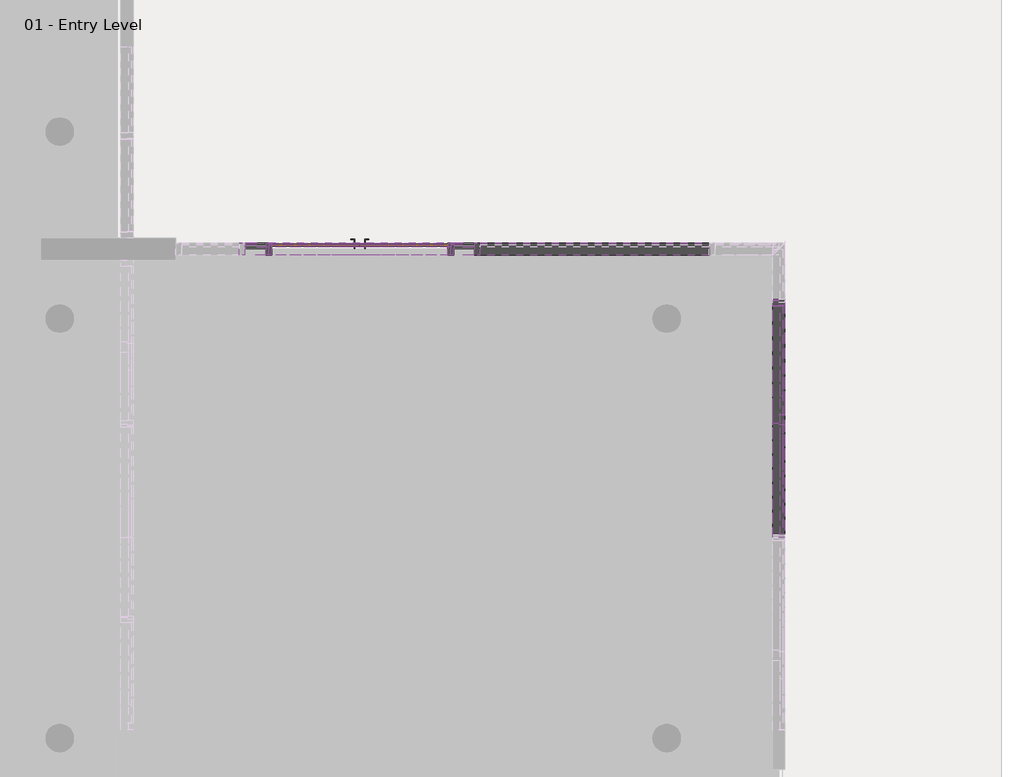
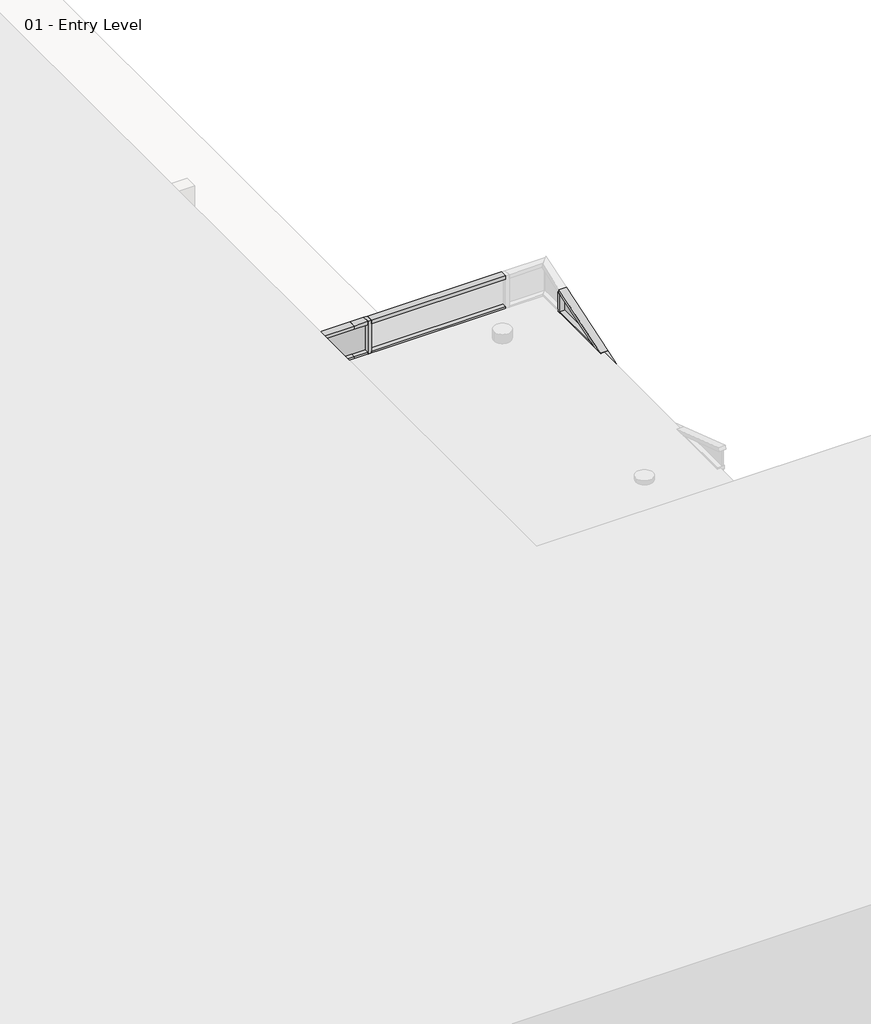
# One storey, part 16 of 35: 95 members, 27 plates, 1 door.
"""IFC4 building model written with IfcOpenShell, lengths in millimetres."""

from ifc_helpers import new_model, si_unit, origin, place, context, project, spatial, transform, mapped, element, save
from components import curtain_wall_dbl_glass_curtain_wall_dbl_glass_a5de0235, member_6e77e263, member_89bfb2f9, member_85cc6aa7, member_474f9ece, member_fce4fd76, member_056e3271, member_b2bde9e6, member_5d67b9fc, member_a5966c2a, member_aa396729, member_420b45ef, member_2eb7018d, member_d60e8053, member_51dbde35, member_30b3e1b1, member_80bb9b3a, member_75d1e245, system_panel_glazed_1068a10c, system_panel_glazed_a178916c, system_panel_glazed_5992a3c5, system_panel_glazed_079f77b7, system_panel_glazed_7ab8f380, system_panel_glazed_5ffb59d1, system_panel_glazed_9c9336f7, system_panel_glazed_75890ef7, system_panel_glazed_ea9774ea

model = new_model("IFC4")

# Units and contexts
model_context = context("Model", 3, world=origin())
ifc_project = project(units=[si_unit("LENGTHUNIT", "METRE", prefix="MILLI")], contexts=[model_context])

# Site, building, storey
site = spatial("IfcSite", under=ifc_project)
building = spatial("IfcBuilding", under=site)
storey = spatial("IfcBuildingStorey", under=building, Name="01 - Entry Level", Elevation=0.0)

# Door
placement = place(None, origin())
curtain_wall_dbl_glass_curtain_wall_dbl_glass_shape = curtain_wall_dbl_glass_curtain_wall_dbl_glass_a5de0235(model_context)
element("IfcDoor", 1, ObjectType="Curtain Wall Dbl Glass : Curtain Wall Dbl Glass", at=placement, inside=storey, context=model_context, shape_type="MappedRepresentation", body=[
    mapped(curtain_wall_dbl_glass_curtain_wall_dbl_glass_shape, transform((19598.7615197, 22545.6, 0.0), x_axis=(-1.0, 0.0, 0.0), y_axis=(0.0, -1.0, 0.0), z_axis=(0.0, 0.0, 1.0))),
])

# Members
member_shape = member_6e77e263(model_context)
element("IfcMember", 2, ObjectType="Rectangular Mullion : 2.5\" x 5\" rectangular", at=placement, inside=storey, context=model_context, shape_type="MappedRepresentation", body=[
    mapped(member_shape, transform((20817.9615197, 22545.6, 0.0), x_axis=(-1.0, 0.0, 0.0), y_axis=(0.0, 1.0, 0.0), z_axis=(0.0, 0.0, -1.0))),
])
element("IfcMember", 3, ObjectType="Rectangular Mullion : 2.5\" x 5\" rectangular", at=placement, inside=storey, context=model_context, shape_type="MappedRepresentation", body=[
    mapped(member_shape, transform((23947.0115197, 21986.8, 0.0), x_axis=(0.0, 1.0, 0.0), y_axis=(1.0, 0.0, 0.0), z_axis=(0.0, 0.0, -1.0))),
])
element("IfcMember", 4, ObjectType="Rectangular Mullion : 2.5\" x 5\" rectangular", at=placement, inside=storey, context=model_context, shape_type="MappedRepresentation", body=[
    mapped(member_shape, transform((20817.9615197, 22545.6, 609.6), x_axis=(-1.0, 0.0, 0.0), y_axis=(0.0, 1.0, 0.0), z_axis=(0.0, 0.0, -1.0))),
])
element("IfcMember", 5, ObjectType="Rectangular Mullion : 2.5\" x 5\" rectangular", at=placement, inside=storey, context=model_context, shape_type="MappedRepresentation", body=[
    mapped(member_shape, transform((20817.9615197, 22545.6, 1219.2), x_axis=(-1.0, 0.0, 0.0), y_axis=(0.0, 1.0, 0.0), z_axis=(0.0, 0.0, -1.0))),
])
element("IfcMember", 6, ObjectType="Rectangular Mullion : 2.5\" x 5\" rectangular", at=placement, inside=storey, context=model_context, shape_type="MappedRepresentation", body=[
    mapped(member_shape, transform((20817.9615197, 22545.6, 2438.4), x_axis=(-1.0, 0.0, 0.0), y_axis=(0.0, 1.0, 0.0), z_axis=(0.0, 0.0, -1.0))),
])
element("IfcMember", 7, ObjectType="Rectangular Mullion : 2.5\" x 5\" rectangular", at=placement, inside=storey, context=model_context, shape_type="MappedRepresentation", body=[
    mapped(member_shape, transform((20817.9615197, 22545.6, 3048.0), x_axis=(-1.0, 0.0, 0.0), y_axis=(0.0, 1.0, 0.0), z_axis=(0.0, 0.0, -1.0))),
])
element("IfcMember", 8, ObjectType="Rectangular Mullion : 2.5\" x 5\" rectangular", at=placement, inside=storey, context=model_context, shape_type="MappedRepresentation", body=[
    mapped(member_shape, transform((23947.0115197, 21986.8, 609.6), x_axis=(0.0, 1.0, 0.0), y_axis=(1.0, 0.0, 0.0), z_axis=(0.0, 0.0, -1.0))),
])
element("IfcMember", 9, ObjectType="Rectangular Mullion : 2.5\" x 5\" rectangular", at=placement, inside=storey, context=model_context, shape_type="MappedRepresentation", body=[
    mapped(member_shape, transform((23947.0115197, 21986.8, 1219.2), x_axis=(0.0, 1.0, 0.0), y_axis=(1.0, 0.0, 0.0), z_axis=(0.0, 0.0, -1.0))),
])
element("IfcMember", 10, ObjectType="Rectangular Mullion : 2.5\" x 5\" rectangular", at=placement, inside=storey, context=model_context, shape_type="MappedRepresentation", body=[
    mapped(member_shape, transform((23947.0115197, 21986.8, 1828.8), x_axis=(0.0, 1.0, 0.0), y_axis=(1.0, 0.0, 0.0), z_axis=(0.0, 0.0, -1.0))),
])
element("IfcMember", 11, ObjectType="Rectangular Mullion : 2.5\" x 5\" rectangular", at=placement, inside=storey, context=model_context, shape_type="MappedRepresentation", body=[
    mapped(member_shape, transform((23947.0115197, 21986.8, 2438.4), x_axis=(0.0, 1.0, 0.0), y_axis=(1.0, 0.0, 0.0), z_axis=(0.0, 0.0, -1.0))),
])
element("IfcMember", 12, ObjectType="Rectangular Mullion : 2.5\" x 5\" rectangular", at=placement, inside=storey, context=model_context, shape_type="MappedRepresentation", body=[
    mapped(member_shape, transform((23947.0115197, 21986.8, 3048.0), x_axis=(0.0, 1.0, 0.0), y_axis=(1.0, 0.0, 0.0), z_axis=(0.0, 0.0, -1.0))),
])
element("IfcMember", 13, ObjectType="Rectangular Mullion : 2.5\" x 5\" rectangular", at=placement, inside=storey, context=model_context, shape_type="MappedRepresentation", body=[
    mapped(member_shape, transform((23947.0115197, 21986.8, 3657.6), x_axis=(0.0, 1.0, 0.0), y_axis=(1.0, 0.0, 0.0), z_axis=(0.0, 0.0, -1.0))),
])
element("IfcMember", 14, ObjectType="Rectangular Mullion : 2.5\" x 5\" rectangular", at=placement, inside=storey, context=model_context, shape_type="MappedRepresentation", body=[
    mapped(member_shape, transform((23947.0115197, 21986.8, 4267.2), x_axis=(0.0, 1.0, 0.0), y_axis=(1.0, 0.0, 0.0), z_axis=(0.0, 0.0, -1.0))),
])
element("IfcMember", 15, ObjectType="Rectangular Mullion : 2.5\" x 5\" rectangular", at=placement, inside=storey, context=model_context, shape_type="MappedRepresentation", body=[
    mapped(member_shape, transform((23947.0115197, 21986.8, 4876.8), x_axis=(0.0, 1.0, 0.0), y_axis=(1.0, 0.0, 0.0), z_axis=(0.0, 0.0, -1.0))),
])
element("IfcMember", 16, ObjectType="Rectangular Mullion : 2.5\" x 5\" rectangular", at=placement, inside=storey, context=model_context, shape_type="MappedRepresentation", body=[
    mapped(member_shape, transform((23947.0115197, 21986.8, 5486.4), x_axis=(0.0, 1.0, 0.0), y_axis=(1.0, 0.0, 0.0), z_axis=(0.0, 0.0, -1.0))),
])
element("IfcMember", 17, ObjectType="Rectangular Mullion : 2.5\" x 5\" rectangular", at=placement, inside=storey, context=model_context, shape_type="MappedRepresentation", body=[
    mapped(member_shape, transform((23947.0115197, 21986.8, 6096.0), x_axis=(0.0, 1.0, 0.0), y_axis=(1.0, 0.0, 0.0), z_axis=(0.0, 0.0, -1.0))),
])
element("IfcMember", 18, ObjectType="Rectangular Mullion : 2.5\" x 5\" rectangular", at=placement, inside=storey, context=model_context, shape_type="MappedRepresentation", body=[
    mapped(member_shape, transform((20817.9615197, 22545.6, 3657.6), x_axis=(-1.0, 0.0, 0.0), y_axis=(0.0, 1.0, 0.0), z_axis=(0.0, 0.0, -1.0))),
])
element("IfcMember", 19, ObjectType="Rectangular Mullion : 2.5\" x 5\" rectangular", at=placement, inside=storey, context=model_context, shape_type="MappedRepresentation", body=[
    mapped(member_shape, transform((20817.9615197, 22545.6, 4267.2), x_axis=(-1.0, 0.0, 0.0), y_axis=(0.0, 1.0, 0.0), z_axis=(0.0, 0.0, -1.0))),
])
element("IfcMember", 20, ObjectType="Rectangular Mullion : 2.5\" x 5\" rectangular", at=placement, inside=storey, context=model_context, shape_type="MappedRepresentation", body=[
    mapped(member_shape, transform((20817.9615197, 22545.6, 4876.8), x_axis=(-1.0, 0.0, 0.0), y_axis=(0.0, 1.0, 0.0), z_axis=(0.0, 0.0, -1.0))),
])
element("IfcMember", 21, ObjectType="Rectangular Mullion : 2.5\" x 5\" rectangular", at=placement, inside=storey, context=model_context, shape_type="MappedRepresentation", body=[
    mapped(member_shape, transform((20817.9615197, 22545.6, 5486.4), x_axis=(-1.0, 0.0, 0.0), y_axis=(0.0, 1.0, 0.0), z_axis=(0.0, 0.0, -1.0))),
])
element("IfcMember", 22, ObjectType="Rectangular Mullion : 2.5\" x 5\" rectangular", at=placement, inside=storey, context=model_context, shape_type="MappedRepresentation", body=[
    mapped(member_shape, transform((20817.9615197, 22545.6, 6096.0), x_axis=(-1.0, 0.0, 0.0), y_axis=(0.0, 1.0, 0.0), z_axis=(0.0, 0.0, -1.0))),
])
element("IfcMember", 23, ObjectType="Rectangular Mullion : 2.5\" x 5\" rectangular", at=placement, inside=storey, context=model_context, shape_type="MappedRepresentation", body=[
    mapped(member_shape, transform((18379.5615197, 22545.6, 4267.2), x_axis=(-1.0, 0.0, 0.0), y_axis=(0.0, 1.0, 0.0), z_axis=(0.0, 0.0, -1.0))),
])
element("IfcMember", 24, ObjectType="Rectangular Mullion : 2.5\" x 5\" rectangular", at=placement, inside=storey, context=model_context, shape_type="MappedRepresentation", body=[
    mapped(member_shape, transform((18379.5615197, 22545.6, 4876.8), x_axis=(-1.0, 0.0, 0.0), y_axis=(0.0, 1.0, 0.0), z_axis=(0.0, 0.0, -1.0))),
])
element("IfcMember", 25, ObjectType="Rectangular Mullion : 2.5\" x 5\" rectangular", at=placement, inside=storey, context=model_context, shape_type="MappedRepresentation", body=[
    mapped(member_shape, transform((18379.5615197, 22545.6, 5486.4), x_axis=(-1.0, 0.0, 0.0), y_axis=(0.0, 1.0, 0.0), z_axis=(0.0, 0.0, -1.0))),
])
element("IfcMember", 26, ObjectType="Rectangular Mullion : 2.5\" x 5\" rectangular", at=placement, inside=storey, context=model_context, shape_type="MappedRepresentation", body=[
    mapped(member_shape, transform((18379.5615197, 22545.6, 6096.0), x_axis=(-1.0, 0.0, 0.0), y_axis=(0.0, 1.0, 0.0), z_axis=(0.0, 0.0, -1.0))),
])
member_2_shape = member_89bfb2f9(model_context)
element("IfcMember", 27, ObjectType="Rectangular Mullion : 2.5\" x 5\" rectangular", at=placement, inside=storey, context=model_context, shape_type="MappedRepresentation", body=[
    mapped(member_2_shape, transform((20849.7115197, 22545.6, 609.6), x_axis=(0.0, 0.0, 1.0), y_axis=(0.0, 1.0, 0.0), z_axis=(-1.0, 0.0, 0.0))),
])
element("IfcMember", 28, ObjectType="Rectangular Mullion : 2.5\" x 5\" rectangular", at=placement, inside=storey, context=model_context, shape_type="MappedRepresentation", body=[
    mapped(member_2_shape, transform((20849.7115197, 22545.6, 1219.2), x_axis=(0.0, 0.0, 1.0), y_axis=(0.0, 1.0, 0.0), z_axis=(-1.0, 0.0, 0.0))),
])
element("IfcMember", 29, ObjectType="Rectangular Mullion : 2.5\" x 5\" rectangular", at=placement, inside=storey, context=model_context, shape_type="MappedRepresentation", body=[
    mapped(member_2_shape, transform((20849.7115197, 22545.6, 1828.8), x_axis=(0.0, 0.0, 1.0), y_axis=(0.0, 1.0, 0.0), z_axis=(-1.0, 0.0, 0.0))),
])
element("IfcMember", 30, ObjectType="Rectangular Mullion : 2.5\" x 5\" rectangular", at=placement, inside=storey, context=model_context, shape_type="MappedRepresentation", body=[
    mapped(member_2_shape, transform((20849.7115197, 22545.6, 2438.4), x_axis=(0.0, 0.0, 1.0), y_axis=(0.0, 1.0, 0.0), z_axis=(-1.0, 0.0, 0.0))),
])
element("IfcMember", 31, ObjectType="Rectangular Mullion : 2.5\" x 5\" rectangular", at=placement, inside=storey, context=model_context, shape_type="MappedRepresentation", body=[
    mapped(member_2_shape, transform((20849.7115197, 22545.6, 3048.0), x_axis=(0.0, 0.0, 1.0), y_axis=(0.0, 1.0, 0.0), z_axis=(-1.0, 0.0, 0.0))),
])
element("IfcMember", 32, ObjectType="Rectangular Mullion : 2.5\" x 5\" rectangular", at=placement, inside=storey, context=model_context, shape_type="MappedRepresentation", body=[
    mapped(member_2_shape, transform((23947.0115197, 21955.05, 609.6), x_axis=(0.0, 0.0, 1.0), y_axis=(1.0, 0.0, 0.0), z_axis=(0.0, 1.0, 0.0))),
])
element("IfcMember", 33, ObjectType="Rectangular Mullion : 2.5\" x 5\" rectangular", at=placement, inside=storey, context=model_context, shape_type="MappedRepresentation", body=[
    mapped(member_2_shape, transform((23947.0115197, 21955.05, 1219.2), x_axis=(0.0, 0.0, 1.0), y_axis=(1.0, 0.0, 0.0), z_axis=(0.0, 1.0, 0.0))),
])
element("IfcMember", 34, ObjectType="Rectangular Mullion : 2.5\" x 5\" rectangular", at=placement, inside=storey, context=model_context, shape_type="MappedRepresentation", body=[
    mapped(member_2_shape, transform((23947.0115197, 21955.05, 1828.8), x_axis=(0.0, 0.0, 1.0), y_axis=(1.0, 0.0, 0.0), z_axis=(0.0, 1.0, 0.0))),
])
element("IfcMember", 35, ObjectType="Rectangular Mullion : 2.5\" x 5\" rectangular", at=placement, inside=storey, context=model_context, shape_type="MappedRepresentation", body=[
    mapped(member_2_shape, transform((23947.0115197, 21955.05, 2438.4), x_axis=(0.0, 0.0, 1.0), y_axis=(1.0, 0.0, 0.0), z_axis=(0.0, 1.0, 0.0))),
])
element("IfcMember", 36, ObjectType="Rectangular Mullion : 2.5\" x 5\" rectangular", at=placement, inside=storey, context=model_context, shape_type="MappedRepresentation", body=[
    mapped(member_2_shape, transform((23947.0115197, 21955.05, 3048.0), x_axis=(0.0, 0.0, 1.0), y_axis=(1.0, 0.0, 0.0), z_axis=(0.0, 1.0, 0.0))),
])
element("IfcMember", 37, ObjectType="Rectangular Mullion : 2.5\" x 5\" rectangular", at=placement, inside=storey, context=model_context, shape_type="MappedRepresentation", body=[
    mapped(member_2_shape, transform((23947.0115197, 21955.05, 3657.6), x_axis=(0.0, 0.0, 1.0), y_axis=(1.0, 0.0, 0.0), z_axis=(0.0, 1.0, 0.0))),
])
element("IfcMember", 38, ObjectType="Rectangular Mullion : 2.5\" x 5\" rectangular", at=placement, inside=storey, context=model_context, shape_type="MappedRepresentation", body=[
    mapped(member_2_shape, transform((23947.0115197, 21955.05, 4267.2), x_axis=(0.0, 0.0, 1.0), y_axis=(1.0, 0.0, 0.0), z_axis=(0.0, 1.0, 0.0))),
])
element("IfcMember", 39, ObjectType="Rectangular Mullion : 2.5\" x 5\" rectangular", at=placement, inside=storey, context=model_context, shape_type="MappedRepresentation", body=[
    mapped(member_2_shape, transform((23947.0115197, 21955.05, 4876.8), x_axis=(0.0, 0.0, 1.0), y_axis=(1.0, 0.0, 0.0), z_axis=(0.0, 1.0, 0.0))),
])
element("IfcMember", 40, ObjectType="Rectangular Mullion : 2.5\" x 5\" rectangular", at=placement, inside=storey, context=model_context, shape_type="MappedRepresentation", body=[
    mapped(member_2_shape, transform((23947.0115197, 21955.05, 5486.4), x_axis=(0.0, 0.0, 1.0), y_axis=(1.0, 0.0, 0.0), z_axis=(0.0, 1.0, 0.0))),
])
element("IfcMember", 41, ObjectType="Rectangular Mullion : 2.5\" x 5\" rectangular", at=placement, inside=storey, context=model_context, shape_type="MappedRepresentation", body=[
    mapped(member_2_shape, transform((23947.0115197, 21955.05, 6096.0), x_axis=(0.0, 0.0, 1.0), y_axis=(1.0, 0.0, 0.0), z_axis=(0.0, 1.0, 0.0))),
])
element("IfcMember", 42, ObjectType="Rectangular Mullion : 2.5\" x 5\" rectangular", at=placement, inside=storey, context=model_context, shape_type="MappedRepresentation", body=[
    mapped(member_2_shape, transform((20849.7115197, 22545.6, 3657.6), x_axis=(0.0, 0.0, 1.0), y_axis=(0.0, 1.0, 0.0), z_axis=(-1.0, 0.0, 0.0))),
])
element("IfcMember", 43, ObjectType="Rectangular Mullion : 2.5\" x 5\" rectangular", at=placement, inside=storey, context=model_context, shape_type="MappedRepresentation", body=[
    mapped(member_2_shape, transform((20849.7115197, 22545.6, 4267.2), x_axis=(0.0, 0.0, 1.0), y_axis=(0.0, 1.0, 0.0), z_axis=(-1.0, 0.0, 0.0))),
])
element("IfcMember", 44, ObjectType="Rectangular Mullion : 2.5\" x 5\" rectangular", at=placement, inside=storey, context=model_context, shape_type="MappedRepresentation", body=[
    mapped(member_2_shape, transform((20849.7115197, 22545.6, 4876.8), x_axis=(0.0, 0.0, 1.0), y_axis=(0.0, 1.0, 0.0), z_axis=(-1.0, 0.0, 0.0))),
])
element("IfcMember", 45, ObjectType="Rectangular Mullion : 2.5\" x 5\" rectangular", at=placement, inside=storey, context=model_context, shape_type="MappedRepresentation", body=[
    mapped(member_2_shape, transform((20849.7115197, 22545.6, 5486.4), x_axis=(0.0, 0.0, 1.0), y_axis=(0.0, 1.0, 0.0), z_axis=(-1.0, 0.0, 0.0))),
])
element("IfcMember", 46, ObjectType="Rectangular Mullion : 2.5\" x 5\" rectangular", at=placement, inside=storey, context=model_context, shape_type="MappedRepresentation", body=[
    mapped(member_2_shape, transform((20849.7115197, 22545.6, 6096.0), x_axis=(0.0, 0.0, 1.0), y_axis=(0.0, 1.0, 0.0), z_axis=(-1.0, 0.0, 0.0))),
])
element("IfcMember", 47, ObjectType="Rectangular Mullion : 2.5\" x 5\" rectangular", at=placement, inside=storey, context=model_context, shape_type="MappedRepresentation", body=[
    mapped(member_2_shape, transform((20849.7115197, 22545.6, 6705.6), x_axis=(0.0, 0.0, 1.0), y_axis=(0.0, 1.0, 0.0), z_axis=(-1.0, 0.0, 0.0))),
])
member_3_shape = member_85cc6aa7(model_context)
element("IfcMember", 48, ObjectType="Rectangular Mullion : 2.5\" x 5\" rectangular", at=placement, inside=storey, context=model_context, shape_type="MappedRepresentation", body=[
    mapped(member_3_shape, transform((23947.0115197, 20716.8, 6705.6), x_axis=(0.0, -0.316227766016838, 0.9486832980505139), y_axis=(1.0, 0.0, 0.0), z_axis=(0.0, 0.9486832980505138, 0.31622776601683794))),
])
member_4_shape = member_474f9ece(model_context)
element("IfcMember", 49, ObjectType="Rectangular Mullion : 2.5\" x 5\" rectangular", at=placement, inside=storey, context=model_context, shape_type="MappedRepresentation", body=[
    mapped(member_4_shape, transform((23947.0115197, 21955.05, 6705.6), x_axis=(0.0, 0.0, 1.0), y_axis=(1.0, 0.0, 0.0), z_axis=(0.0, 1.0, 0.0))),
])
member_5_shape = member_fce4fd76(model_context)
element("IfcMember", 50, ObjectType="Rectangular Mullion : 2.5\" x 5\" rectangular", at=placement, inside=storey, context=model_context, shape_type="MappedRepresentation", body=[
    mapped(member_5_shape, transform((23947.0115197, 21986.8, 7128.9333333), x_axis=(0.0, -0.31622776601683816, 0.9486832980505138), y_axis=(1.0, 0.0, 0.0), z_axis=(0.0, 0.9486832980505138, 0.31622776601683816))),
])
member_6_shape = member_056e3271(model_context)
element("IfcMember", 51, ObjectType="Rectangular Mullion : 2.5\" x 5\" rectangular", at=placement, inside=storey, context=model_context, shape_type="MappedRepresentation", body=[
    mapped(member_6_shape, transform((23947.0115197, 21986.8, 6705.6), x_axis=(0.0, 1.0, 0.0), y_axis=(1.0, 0.0, 0.0), z_axis=(0.0, 0.0, -1.0))),
])
member_7_shape = member_b2bde9e6(model_context)
element("IfcMember", 52, ObjectType="Rectangular Mullion : 2.5\" x 5\" rectangular", at=placement, inside=storey, context=model_context, shape_type="MappedRepresentation", body=[
    mapped(member_7_shape, transform((20849.7115197, 22545.6, 7315.2), x_axis=(0.0, 0.0, 1.0), y_axis=(0.0, 1.0, 0.0), z_axis=(-1.0, 0.0, 0.0))),
])
element("IfcMember", 53, ObjectType="Rectangular Mullion : 2.5\" x 5\" rectangular", at=placement, inside=storey, context=model_context, shape_type="MappedRepresentation", body=[
    mapped(member_shape, transform((20817.9615197, 22545.6, 6705.6), x_axis=(-1.0, 0.0, 0.0), y_axis=(0.0, 1.0, 0.0), z_axis=(0.0, 0.0, -1.0))),
])
element("IfcMember", 54, ObjectType="Rectangular Mullion : 2.5\" x 5\" rectangular", at=placement, inside=storey, context=model_context, shape_type="MappedRepresentation", body=[
    mapped(member_shape, transform((18379.5615197, 22545.6, 6705.6), x_axis=(-1.0, 0.0, 0.0), y_axis=(0.0, 1.0, 0.0), z_axis=(0.0, 0.0, -1.0))),
])
member_8_shape = member_5d67b9fc(model_context)
element("IfcMember", 55, ObjectType="Rectangular Mullion : 2.5\" x 5\" rectangular", at=placement, inside=storey, context=model_context, shape_type="MappedRepresentation", body=[
    mapped(member_8_shape, transform((20817.9615197, 22545.6, 2165.35), x_axis=(-1.0, 0.0, 0.0), y_axis=(0.0, 1.0, 0.0), z_axis=(0.0, 0.0, -1.0))),
])
element("IfcMember", 56, ObjectType="Rectangular Mullion : 2.5\" x 5\" rectangular", at=placement, inside=storey, context=model_context, shape_type="MappedRepresentation", body=[
    mapped(member_8_shape, transform((18379.5615197, 22545.6, 2165.35), x_axis=(-1.0, 0.0, 0.0), y_axis=(0.0, 1.0, 0.0), z_axis=(0.0, 0.0, -1.0))),
])
member_9_shape = member_a5966c2a(model_context)
element("IfcMember", 57, ObjectType="Rectangular Mullion : 2.5\" x 5\" rectangular", at=placement, inside=storey, context=model_context, shape_type="MappedRepresentation", body=[
    mapped(member_9_shape, transform((20576.6615197, 22545.6, 2438.4), x_axis=(0.0, 0.0, 1.0), y_axis=(0.0, 1.0, 0.0), z_axis=(-1.0, 0.0, 0.0))),
])
element("IfcMember", 58, ObjectType="Rectangular Mullion : 2.5\" x 5\" rectangular", at=placement, inside=storey, context=model_context, shape_type="MappedRepresentation", body=[
    mapped(member_9_shape, transform((18411.3115197, 22545.6, 2438.4), x_axis=(0.0, 0.0, 1.0), y_axis=(0.0, 1.0, 0.0), z_axis=(-1.0, 0.0, 0.0))),
])
member_10_shape = member_aa396729(model_context)
element("IfcMember", 59, ObjectType="Rectangular Mullion : 2.5\" x 5\" rectangular", at=placement, inside=storey, context=model_context, shape_type="MappedRepresentation", body=[
    mapped(member_10_shape, transform((20544.9115197, 22545.6, 3048.0), x_axis=(0.0, 0.0, 1.0), y_axis=(0.0, 1.0, 0.0), z_axis=(-1.0, 0.0, 0.0))),
])
element("IfcMember", 60, ObjectType="Rectangular Mullion : 2.5\" x 5\" rectangular", at=placement, inside=storey, context=model_context, shape_type="MappedRepresentation", body=[
    mapped(member_10_shape, transform((20544.9115197, 22545.6, 3657.6), x_axis=(0.0, 0.0, 1.0), y_axis=(0.0, 1.0, 0.0), z_axis=(-1.0, 0.0, 0.0))),
])
element("IfcMember", 61, ObjectType="Rectangular Mullion : 2.5\" x 5\" rectangular", at=placement, inside=storey, context=model_context, shape_type="MappedRepresentation", body=[
    mapped(member_10_shape, transform((20544.9115197, 22545.6, 4267.2), x_axis=(0.0, 0.0, 1.0), y_axis=(0.0, 1.0, 0.0), z_axis=(-1.0, 0.0, 0.0))),
])
element("IfcMember", 62, ObjectType="Rectangular Mullion : 2.5\" x 5\" rectangular", at=placement, inside=storey, context=model_context, shape_type="MappedRepresentation", body=[
    mapped(member_10_shape, transform((20544.9115197, 22545.6, 4876.8), x_axis=(0.0, 0.0, 1.0), y_axis=(0.0, 1.0, 0.0), z_axis=(-1.0, 0.0, 0.0))),
])
element("IfcMember", 63, ObjectType="Rectangular Mullion : 2.5\" x 5\" rectangular", at=placement, inside=storey, context=model_context, shape_type="MappedRepresentation", body=[
    mapped(member_10_shape, transform((20544.9115197, 22545.6, 5486.4), x_axis=(0.0, 0.0, 1.0), y_axis=(0.0, 1.0, 0.0), z_axis=(-1.0, 0.0, 0.0))),
])
element("IfcMember", 64, ObjectType="Rectangular Mullion : 2.5\" x 5\" rectangular", at=placement, inside=storey, context=model_context, shape_type="MappedRepresentation", body=[
    mapped(member_10_shape, transform((20544.9115197, 22545.6, 6096.0), x_axis=(0.0, 0.0, 1.0), y_axis=(0.0, 1.0, 0.0), z_axis=(-1.0, 0.0, 0.0))),
])
element("IfcMember", 65, ObjectType="Rectangular Mullion : 2.5\" x 5\" rectangular", at=placement, inside=storey, context=model_context, shape_type="MappedRepresentation", body=[
    mapped(member_10_shape, transform((20544.9115197, 22545.6, 6705.6), x_axis=(0.0, 0.0, 1.0), y_axis=(0.0, 1.0, 0.0), z_axis=(-1.0, 0.0, 0.0))),
])
member_11_shape = member_420b45ef(model_context)
element("IfcMember", 66, ObjectType="Rectangular Mullion : 2.5\" x 5\" rectangular", at=placement, inside=storey, context=model_context, shape_type="MappedRepresentation", body=[
    mapped(member_11_shape, transform((20786.2115197, 22545.6, 0.0), x_axis=(0.0, 0.0, -1.0), y_axis=(0.0, 1.0, 0.0), z_axis=(1.0, 0.0, 0.0))),
])
element("IfcMember", 67, ObjectType="Rectangular Mullion : 2.5\" x 5\" rectangular", at=placement, inside=storey, context=model_context, shape_type="MappedRepresentation", body=[
    mapped(member_11_shape, transform((18620.8615197, 22545.6, 0.0), x_axis=(0.0, 0.0, -1.0), y_axis=(0.0, 1.0, 0.0), z_axis=(1.0, 0.0, 0.0))),
])
member_12_shape = member_2eb7018d(model_context)
element("IfcMember", 68, ObjectType="Rectangular Mullion : 2.5\" x 5\" rectangular", at=placement, inside=storey, context=model_context, shape_type="MappedRepresentation", body=[
    mapped(member_12_shape, transform((20544.9115197, 22545.6, 7315.2), x_axis=(0.0, 0.0, 1.0), y_axis=(0.0, 1.0, 0.0), z_axis=(-1.0, 0.0, 0.0))),
])
element("IfcMember", 69, ObjectType="Rectangular Mullion : 2.5\" x 5\" rectangular", at=placement, inside=storey, context=model_context, shape_type="MappedRepresentation", body=[
    mapped(member_10_shape, transform((18411.3115197, 22545.6, 3048.0), x_axis=(0.0, 0.0, 1.0), y_axis=(0.0, 1.0, 0.0), z_axis=(-1.0, 0.0, 0.0))),
])
element("IfcMember", 70, ObjectType="Rectangular Mullion : 2.5\" x 5\" rectangular", at=placement, inside=storey, context=model_context, shape_type="MappedRepresentation", body=[
    mapped(member_10_shape, transform((18411.3115197, 22545.6, 3657.6), x_axis=(0.0, 0.0, 1.0), y_axis=(0.0, 1.0, 0.0), z_axis=(-1.0, 0.0, 0.0))),
])
element("IfcMember", 71, ObjectType="Rectangular Mullion : 2.5\" x 5\" rectangular", at=placement, inside=storey, context=model_context, shape_type="MappedRepresentation", body=[
    mapped(member_10_shape, transform((18411.3115197, 22545.6, 4267.2), x_axis=(0.0, 0.0, 1.0), y_axis=(0.0, 1.0, 0.0), z_axis=(-1.0, 0.0, 0.0))),
])
element("IfcMember", 72, ObjectType="Rectangular Mullion : 2.5\" x 5\" rectangular", at=placement, inside=storey, context=model_context, shape_type="MappedRepresentation", body=[
    mapped(member_10_shape, transform((18411.3115197, 22545.6, 4876.8), x_axis=(0.0, 0.0, 1.0), y_axis=(0.0, 1.0, 0.0), z_axis=(-1.0, 0.0, 0.0))),
])
element("IfcMember", 73, ObjectType="Rectangular Mullion : 2.5\" x 5\" rectangular", at=placement, inside=storey, context=model_context, shape_type="MappedRepresentation", body=[
    mapped(member_10_shape, transform((18411.3115197, 22545.6, 5486.4), x_axis=(0.0, 0.0, 1.0), y_axis=(0.0, 1.0, 0.0), z_axis=(-1.0, 0.0, 0.0))),
])
element("IfcMember", 74, ObjectType="Rectangular Mullion : 2.5\" x 5\" rectangular", at=placement, inside=storey, context=model_context, shape_type="MappedRepresentation", body=[
    mapped(member_10_shape, transform((18411.3115197, 22545.6, 6096.0), x_axis=(0.0, 0.0, 1.0), y_axis=(0.0, 1.0, 0.0), z_axis=(-1.0, 0.0, 0.0))),
])
element("IfcMember", 75, ObjectType="Rectangular Mullion : 2.5\" x 5\" rectangular", at=placement, inside=storey, context=model_context, shape_type="MappedRepresentation", body=[
    mapped(member_10_shape, transform((18411.3115197, 22545.6, 6705.6), x_axis=(0.0, 0.0, 1.0), y_axis=(0.0, 1.0, 0.0), z_axis=(-1.0, 0.0, 0.0))),
])
member_13_shape = member_d60e8053(model_context)
element("IfcMember", 76, ObjectType="Rectangular Mullion : 2.5\" x 5\" rectangular", at=placement, inside=storey, context=model_context, shape_type="MappedRepresentation", body=[
    mapped(member_13_shape, transform((18684.3615197, 22545.6, 2438.4), x_axis=(0.0, 0.0, 1.0), y_axis=(0.0, 1.0, 0.0), z_axis=(-1.0, 0.0, 0.0))),
])
element("IfcMember", 77, ObjectType="Rectangular Mullion : 2.5\" x 5\" rectangular", at=placement, inside=storey, context=model_context, shape_type="MappedRepresentation", body=[
    mapped(member_13_shape, transform((18684.3615197, 22545.6, 2165.35), x_axis=(0.0, 0.0, 1.0), y_axis=(0.0, 1.0, 0.0), z_axis=(-1.0, 0.0, 0.0))),
])
member_14_shape = member_51dbde35(model_context)
element("IfcMember", 78, ObjectType="Rectangular Mullion : 2.5\" x 5\" rectangular", at=placement, inside=storey, context=model_context, shape_type="MappedRepresentation", body=[
    mapped(member_14_shape, transform((18652.6115197, 22545.6, 3048.0), x_axis=(0.0, 0.0, 1.0), y_axis=(0.0, 1.0, 0.0), z_axis=(-1.0, 0.0, 0.0))),
])
element("IfcMember", 79, ObjectType="Rectangular Mullion : 2.5\" x 5\" rectangular", at=placement, inside=storey, context=model_context, shape_type="MappedRepresentation", body=[
    mapped(member_14_shape, transform((18652.6115197, 22545.6, 3657.6), x_axis=(0.0, 0.0, 1.0), y_axis=(0.0, 1.0, 0.0), z_axis=(-1.0, 0.0, 0.0))),
])
element("IfcMember", 80, ObjectType="Rectangular Mullion : 2.5\" x 5\" rectangular", at=placement, inside=storey, context=model_context, shape_type="MappedRepresentation", body=[
    mapped(member_14_shape, transform((18652.6115197, 22545.6, 4267.2), x_axis=(0.0, 0.0, 1.0), y_axis=(0.0, 1.0, 0.0), z_axis=(-1.0, 0.0, 0.0))),
])
element("IfcMember", 81, ObjectType="Rectangular Mullion : 2.5\" x 5\" rectangular", at=placement, inside=storey, context=model_context, shape_type="MappedRepresentation", body=[
    mapped(member_14_shape, transform((18652.6115197, 22545.6, 4876.8), x_axis=(0.0, 0.0, 1.0), y_axis=(0.0, 1.0, 0.0), z_axis=(-1.0, 0.0, 0.0))),
])
element("IfcMember", 82, ObjectType="Rectangular Mullion : 2.5\" x 5\" rectangular", at=placement, inside=storey, context=model_context, shape_type="MappedRepresentation", body=[
    mapped(member_14_shape, transform((18652.6115197, 22545.6, 5486.4), x_axis=(0.0, 0.0, 1.0), y_axis=(0.0, 1.0, 0.0), z_axis=(-1.0, 0.0, 0.0))),
])
element("IfcMember", 83, ObjectType="Rectangular Mullion : 2.5\" x 5\" rectangular", at=placement, inside=storey, context=model_context, shape_type="MappedRepresentation", body=[
    mapped(member_14_shape, transform((18652.6115197, 22545.6, 6096.0), x_axis=(0.0, 0.0, 1.0), y_axis=(0.0, 1.0, 0.0), z_axis=(-1.0, 0.0, 0.0))),
])
element("IfcMember", 84, ObjectType="Rectangular Mullion : 2.5\" x 5\" rectangular", at=placement, inside=storey, context=model_context, shape_type="MappedRepresentation", body=[
    mapped(member_14_shape, transform((18652.6115197, 22545.6, 6705.6), x_axis=(0.0, 0.0, 1.0), y_axis=(0.0, 1.0, 0.0), z_axis=(-1.0, 0.0, 0.0))),
])
member_15_shape = member_30b3e1b1(model_context)
element("IfcMember", 85, ObjectType="Rectangular Mullion : 2.5\" x 5\" rectangular", at=placement, inside=storey, context=model_context, shape_type="MappedRepresentation", body=[
    mapped(member_15_shape, transform((18652.6115197, 22545.6, 7315.2), x_axis=(0.0, 0.0, 1.0), y_axis=(0.0, 1.0, 0.0), z_axis=(-1.0, 0.0, 0.0))),
])
element("IfcMember", 86, ObjectType="Rectangular Mullion : 2.5\" x 5\" rectangular", at=placement, inside=storey, context=model_context, shape_type="MappedRepresentation", body=[
    mapped(member_shape, transform((20544.9115197, 22545.6, 609.6), x_axis=(-1.0, 0.0, 0.0), y_axis=(0.0, 1.0, 0.0), z_axis=(0.0, 0.0, -1.0))),
])
element("IfcMember", 87, ObjectType="Rectangular Mullion : 2.5\" x 5\" rectangular", at=placement, inside=storey, context=model_context, shape_type="MappedRepresentation", body=[
    mapped(member_shape, transform((20544.9115197, 22545.6, 1219.2), x_axis=(-1.0, 0.0, 0.0), y_axis=(0.0, 1.0, 0.0), z_axis=(0.0, 0.0, -1.0))),
])
element("IfcMember", 88, ObjectType="Rectangular Mullion : 2.5\" x 5\" rectangular", at=placement, inside=storey, context=model_context, shape_type="MappedRepresentation", body=[
    mapped(member_shape, transform((18652.6115197, 22545.6, 609.6), x_axis=(-1.0, 0.0, 0.0), y_axis=(0.0, 1.0, 0.0), z_axis=(0.0, 0.0, -1.0))),
])
element("IfcMember", 89, ObjectType="Rectangular Mullion : 2.5\" x 5\" rectangular", at=placement, inside=storey, context=model_context, shape_type="MappedRepresentation", body=[
    mapped(member_shape, transform((18652.6115197, 22545.6, 1219.2), x_axis=(-1.0, 0.0, 0.0), y_axis=(0.0, 1.0, 0.0), z_axis=(0.0, 0.0, -1.0))),
])
element("IfcMember", 90, ObjectType="Rectangular Mullion : 2.5\" x 5\" rectangular", at=placement, inside=storey, context=model_context, shape_type="MappedRepresentation", body=[
    mapped(member_shape, transform((20544.9115197, 22545.6, 0.0), x_axis=(-1.0, 0.0, 0.0), y_axis=(0.0, 1.0, 0.0), z_axis=(0.0, 0.0, -1.0))),
])
element("IfcMember", 91, ObjectType="Rectangular Mullion : 2.5\" x 5\" rectangular", at=placement, inside=storey, context=model_context, shape_type="MappedRepresentation", body=[
    mapped(member_shape, transform((18652.6115197, 22545.6, 0.0), x_axis=(-1.0, 0.0, 0.0), y_axis=(0.0, 1.0, 0.0), z_axis=(0.0, 0.0, -1.0))),
])
member_16_shape = member_80bb9b3a(model_context)
element("IfcMember", 92, ObjectType="Rectangular Mullion : 2.5\" x 5\" rectangular", at=placement, inside=storey, context=model_context, shape_type="MappedRepresentation", body=[
    mapped(member_16_shape, transform((20817.9615197, 22545.6, 1828.8), x_axis=(-1.0, 0.0, 0.0), y_axis=(0.0, 1.0, 0.0), z_axis=(0.0, 0.0, -1.0))),
])
element("IfcMember", 93, ObjectType="Rectangular Mullion : 2.5\" x 5\" rectangular", at=placement, inside=storey, context=model_context, shape_type="MappedRepresentation", body=[
    mapped(member_16_shape, transform((20544.9115197, 22545.6, 1828.8), x_axis=(-1.0, 0.0, 0.0), y_axis=(0.0, 1.0, 0.0), z_axis=(0.0, 0.0, -1.0))),
])
element("IfcMember", 94, ObjectType="Rectangular Mullion : 2.5\" x 5\" rectangular", at=placement, inside=storey, context=model_context, shape_type="MappedRepresentation", body=[
    mapped(member_16_shape, transform((18652.6115197, 22545.6, 1828.8), x_axis=(-1.0, 0.0, 0.0), y_axis=(0.0, 1.0, 0.0), z_axis=(0.0, 0.0, -1.0))),
])
member_17_shape = member_75d1e245(model_context)
element("IfcMember", 95, ObjectType="Rectangular Mullion : 2.5\" x 5\" rectangular", at=placement, inside=storey, context=model_context, shape_type="MappedRepresentation", body=[
    mapped(member_17_shape, transform((20544.9115197, 22545.6, 2165.35), x_axis=(-1.0, 0.0, 0.0), y_axis=(0.0, 1.0, 0.0), z_axis=(0.0, 0.0, -1.0))),
])
element("IfcMember", 96, ObjectType="Rectangular Mullion : 2.5\" x 5\" rectangular", at=placement, inside=storey, context=model_context, shape_type="MappedRepresentation", body=[
    mapped(member_17_shape, transform((18652.6115197, 22545.6, 2165.35), x_axis=(-1.0, 0.0, 0.0), y_axis=(0.0, 1.0, 0.0), z_axis=(0.0, 0.0, -1.0))),
])

# Plates
system_panel_glazed_shape = system_panel_glazed_1068a10c(model_context)
element("IfcPlate", 97, ObjectType="System Panel : Glazed", at=placement, inside=storey, context=model_context, shape_type="MappedRepresentation", body=[
    mapped(system_panel_glazed_shape, transform((22037.1615197, 22545.6, 63.5), x_axis=(-1.0, 0.0, 0.0), y_axis=(0.0, -1.0, 0.0), z_axis=(0.0, 0.0, 1.0))),
])
element("IfcPlate", 98, ObjectType="System Panel : Glazed", at=placement, inside=storey, context=model_context, shape_type="MappedRepresentation", body=[
    mapped(system_panel_glazed_shape, transform((23947.0115197, 20767.6, 63.5), x_axis=(0.0, 1.0, 0.0), y_axis=(-1.0, 0.0, 0.0), z_axis=(0.0, 0.0, 1.0))),
])
system_panel_glazed_2_shape = system_panel_glazed_a178916c(model_context)
element("IfcPlate", 99, ObjectType="System Panel : Glazed", at=placement, inside=storey, context=model_context, shape_type="MappedRepresentation", body=[
    mapped(system_panel_glazed_2_shape, transform((22037.1615197, 22545.6, 641.35), x_axis=(-1.0, 0.0, 0.0), y_axis=(0.0, -1.0, 0.0), z_axis=(0.0, 0.0, 1.0))),
])
element("IfcPlate", 100, ObjectType="System Panel : Glazed", at=placement, inside=storey, context=model_context, shape_type="MappedRepresentation", body=[
    mapped(system_panel_glazed_2_shape, transform((22037.1615197, 22545.6, 1250.95), x_axis=(-1.0, 0.0, 0.0), y_axis=(0.0, -1.0, 0.0), z_axis=(0.0, 0.0, 1.0))),
])
element("IfcPlate", 101, ObjectType="System Panel : Glazed", at=placement, inside=storey, context=model_context, shape_type="MappedRepresentation", body=[
    mapped(system_panel_glazed_2_shape, transform((23947.0115197, 20767.6, 641.35), x_axis=(0.0, 1.0, 0.0), y_axis=(-1.0, 0.0, 0.0), z_axis=(0.0, 0.0, 1.0))),
])
element("IfcPlate", 102, ObjectType="System Panel : Glazed", at=placement, inside=storey, context=model_context, shape_type="MappedRepresentation", body=[
    mapped(system_panel_glazed_2_shape, transform((23947.0115197, 20767.6, 1250.95), x_axis=(0.0, 1.0, 0.0), y_axis=(-1.0, 0.0, 0.0), z_axis=(0.0, 0.0, 1.0))),
])
element("IfcPlate", 103, ObjectType="System Panel : Glazed", at=placement, inside=storey, context=model_context, shape_type="MappedRepresentation", body=[
    mapped(system_panel_glazed_2_shape, transform((23947.0115197, 20767.6, 1860.55), x_axis=(0.0, 1.0, 0.0), y_axis=(-1.0, 0.0, 0.0), z_axis=(0.0, 0.0, 1.0))),
])
element("IfcPlate", 104, ObjectType="System Panel : Glazed", at=placement, inside=storey, context=model_context, shape_type="MappedRepresentation", body=[
    mapped(system_panel_glazed_2_shape, transform((23947.0115197, 20767.6, 2470.15), x_axis=(0.0, 1.0, 0.0), y_axis=(-1.0, 0.0, 0.0), z_axis=(0.0, 0.0, 1.0))),
])
element("IfcPlate", 105, ObjectType="System Panel : Glazed", at=placement, inside=storey, context=model_context, shape_type="MappedRepresentation", body=[
    mapped(system_panel_glazed_2_shape, transform((23947.0115197, 20767.6, 3079.75), x_axis=(0.0, 1.0, 0.0), y_axis=(-1.0, 0.0, 0.0), z_axis=(0.0, 0.0, 1.0))),
])
element("IfcPlate", 106, ObjectType="System Panel : Glazed", at=placement, inside=storey, context=model_context, shape_type="MappedRepresentation", body=[
    mapped(system_panel_glazed_2_shape, transform((23947.0115197, 20767.6, 3689.35), x_axis=(0.0, 1.0, 0.0), y_axis=(-1.0, 0.0, 0.0), z_axis=(0.0, 0.0, 1.0))),
])
element("IfcPlate", 107, ObjectType="System Panel : Glazed", at=placement, inside=storey, context=model_context, shape_type="MappedRepresentation", body=[
    mapped(system_panel_glazed_2_shape, transform((23947.0115197, 20767.6, 4298.95), x_axis=(0.0, 1.0, 0.0), y_axis=(-1.0, 0.0, 0.0), z_axis=(0.0, 0.0, 1.0))),
])
element("IfcPlate", 108, ObjectType="System Panel : Glazed", at=placement, inside=storey, context=model_context, shape_type="MappedRepresentation", body=[
    mapped(system_panel_glazed_2_shape, transform((23947.0115197, 20767.6, 4908.55), x_axis=(0.0, 1.0, 0.0), y_axis=(-1.0, 0.0, 0.0), z_axis=(0.0, 0.0, 1.0))),
])
element("IfcPlate", 109, ObjectType="System Panel : Glazed", at=placement, inside=storey, context=model_context, shape_type="MappedRepresentation", body=[
    mapped(system_panel_glazed_2_shape, transform((23947.0115197, 20767.6, 5518.15), x_axis=(0.0, 1.0, 0.0), y_axis=(-1.0, 0.0, 0.0), z_axis=(0.0, 0.0, 1.0))),
])
system_panel_glazed_3_shape = system_panel_glazed_5992a3c5(model_context)
element("IfcPlate", 110, ObjectType="System Panel : Glazed", at=placement, inside=storey, context=model_context, shape_type="MappedRepresentation", body=[
    mapped(system_panel_glazed_3_shape, transform((23947.0115197, 20767.6, 6127.75), x_axis=(0.0, 1.0, 0.0), y_axis=(-1.0, 0.0, 0.0), z_axis=(0.0, 0.0, 1.0))),
])
system_panel_glazed_4_shape = system_panel_glazed_079f77b7(model_context)
element("IfcPlate", 111, ObjectType="System Panel : Glazed", at=placement, inside=storey, context=model_context, shape_type="MappedRepresentation", body=[
    mapped(system_panel_glazed_4_shape, transform((23947.0115197, 21483.9523157, 6737.35), x_axis=(0.0, 1.0, 0.0), y_axis=(-1.0, 0.0, 0.0), z_axis=(0.0, 0.0, 1.0))),
])
system_panel_glazed_5_shape = system_panel_glazed_7ab8f380(model_context)
element("IfcPlate", 112, ObjectType="System Panel : Glazed", at=placement, inside=storey, context=model_context, shape_type="MappedRepresentation", body=[
    mapped(system_panel_glazed_5_shape, transform((19598.7615197, 22545.6, 2470.15), x_axis=(-1.0, 0.0, 0.0), y_axis=(0.0, -1.0, 0.0), z_axis=(0.0, 0.0, 1.0))),
])
element("IfcPlate", 113, ObjectType="System Panel : Glazed", at=placement, inside=storey, context=model_context, shape_type="MappedRepresentation", body=[
    mapped(system_panel_glazed_5_shape, transform((19598.7615197, 22545.6, 3079.75), x_axis=(-1.0, 0.0, 0.0), y_axis=(0.0, -1.0, 0.0), z_axis=(0.0, 0.0, 1.0))),
])
element("IfcPlate", 114, ObjectType="System Panel : Glazed", at=placement, inside=storey, context=model_context, shape_type="MappedRepresentation", body=[
    mapped(system_panel_glazed_5_shape, transform((19598.7615197, 22545.6, 3689.35), x_axis=(-1.0, 0.0, 0.0), y_axis=(0.0, -1.0, 0.0), z_axis=(0.0, 0.0, 1.0))),
])
element("IfcPlate", 115, ObjectType="System Panel : Glazed", at=placement, inside=storey, context=model_context, shape_type="MappedRepresentation", body=[
    mapped(system_panel_glazed_5_shape, transform((19598.7615197, 22545.6, 4298.95), x_axis=(-1.0, 0.0, 0.0), y_axis=(0.0, -1.0, 0.0), z_axis=(0.0, 0.0, 1.0))),
])
element("IfcPlate", 116, ObjectType="System Panel : Glazed", at=placement, inside=storey, context=model_context, shape_type="MappedRepresentation", body=[
    mapped(system_panel_glazed_5_shape, transform((19598.7615197, 22545.6, 4908.55), x_axis=(-1.0, 0.0, 0.0), y_axis=(0.0, -1.0, 0.0), z_axis=(0.0, 0.0, 1.0))),
])
element("IfcPlate", 117, ObjectType="System Panel : Glazed", at=placement, inside=storey, context=model_context, shape_type="MappedRepresentation", body=[
    mapped(system_panel_glazed_5_shape, transform((19598.7615197, 22545.6, 5518.15), x_axis=(-1.0, 0.0, 0.0), y_axis=(0.0, -1.0, 0.0), z_axis=(0.0, 0.0, 1.0))),
])
element("IfcPlate", 118, ObjectType="System Panel : Glazed", at=placement, inside=storey, context=model_context, shape_type="MappedRepresentation", body=[
    mapped(system_panel_glazed_5_shape, transform((19598.7615197, 22545.6, 6127.75), x_axis=(-1.0, 0.0, 0.0), y_axis=(0.0, -1.0, 0.0), z_axis=(0.0, 0.0, 1.0))),
])
system_panel_glazed_6_shape = system_panel_glazed_5ffb59d1(model_context)
element("IfcPlate", 119, ObjectType="System Panel : Glazed", at=placement, inside=storey, context=model_context, shape_type="MappedRepresentation", body=[
    mapped(system_panel_glazed_6_shape, transform((19598.7615197, 22545.6, 6737.35), x_axis=(-1.0, 0.0, 0.0), y_axis=(0.0, -1.0, 0.0), z_axis=(0.0, 0.0, 1.0))),
])
system_panel_glazed_7_shape = system_panel_glazed_9c9336f7(model_context)
element("IfcPlate", 120, ObjectType="System Panel : Glazed", at=placement, inside=storey, context=model_context, shape_type="MappedRepresentation", body=[
    mapped(system_panel_glazed_7_shape, transform((20681.4365197, 22545.6, 63.5), x_axis=(-1.0, 0.0, 0.0), y_axis=(0.0, -1.0, 0.0), z_axis=(0.0, 0.0, 1.0))),
])
element("IfcPlate", 121, ObjectType="System Panel : Glazed", at=placement, inside=storey, context=model_context, shape_type="MappedRepresentation", body=[
    mapped(system_panel_glazed_7_shape, transform((18516.0865197, 22545.6, 63.5), x_axis=(-1.0, 0.0, 0.0), y_axis=(0.0, -1.0, 0.0), z_axis=(0.0, 0.0, 1.0))),
])
system_panel_glazed_8_shape = system_panel_glazed_75890ef7(model_context)
element("IfcPlate", 122, ObjectType="System Panel : Glazed", at=placement, inside=storey, context=model_context, shape_type="MappedRepresentation", body=[
    mapped(system_panel_glazed_8_shape, transform((22037.1615197, 22545.6, 1860.55), x_axis=(-1.0, 0.0, 0.0), y_axis=(0.0, -1.0, 0.0), z_axis=(0.0, 0.0, 1.0))),
])
system_panel_glazed_9_shape = system_panel_glazed_ea9774ea(model_context)
element("IfcPlate", 123, ObjectType="System Panel : Glazed", at=placement, inside=storey, context=model_context, shape_type="MappedRepresentation", body=[
    mapped(system_panel_glazed_9_shape, transform((19598.7615197, 22545.6, 2197.1), x_axis=(-1.0, 0.0, 0.0), y_axis=(0.0, -1.0, 0.0), z_axis=(0.0, 0.0, 1.0))),
])

save(model, "model.ifc")
